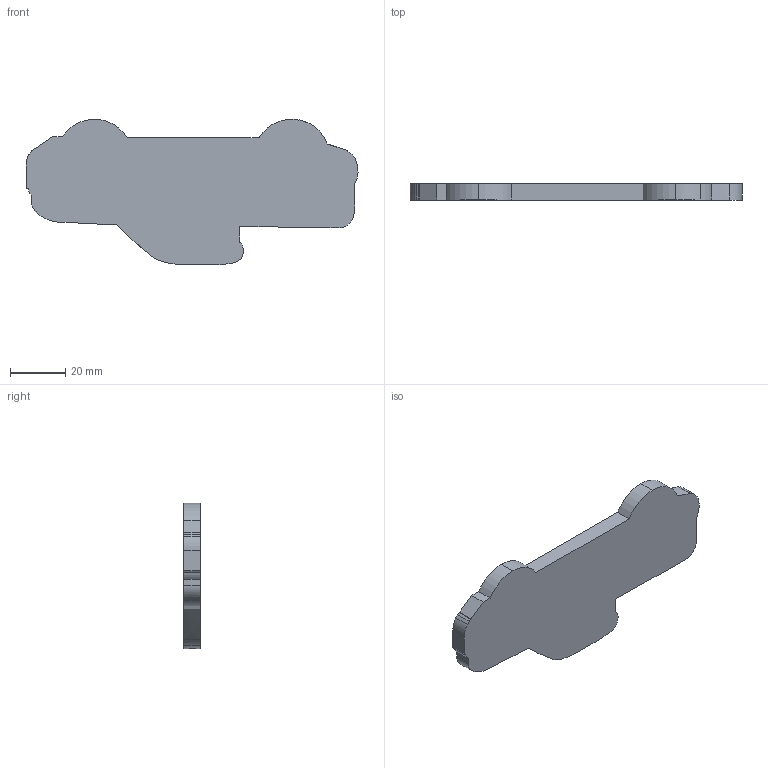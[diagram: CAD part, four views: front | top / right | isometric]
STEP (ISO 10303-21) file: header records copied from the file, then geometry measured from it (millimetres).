
FILE_DESCRIPTION (( 'STEP AP203' ), '1' );
FILE_NAME ('TRUCK COOKIE CUTTER.STEP', '2025-11-17T16:59:59', ( '' ), ( '' ), 'SwSTEP 2.0', 'SolidWorks 2024', '' );
FILE_SCHEMA (( 'CONFIG_CONTROL_DESIGN' ));
Length unit declared in the file: millimetre
Products named in the file (1): TRUCK COOKIE CUTTER
Bounding box: 120.23 x 5.88 x 52.67 mm (x, y, z)
Volume: 9650.4 mm3; surface area: 17272.2 mm2
Topology: 1 solids, 1 shells, 408 faces, 1119 edges, 746 vertices
Faces by surface type: plane 210, bspline 191, cylinder 7
Entity records: 15539 total; most frequent: CARTESIAN_POINT 6420, ORIENTED_EDGE 2238, DIRECTION 1168, EDGE_CURVE 1119, VERTEX_POINT 746, VECTOR 716, LINE 716, EDGE_LOOP 445
